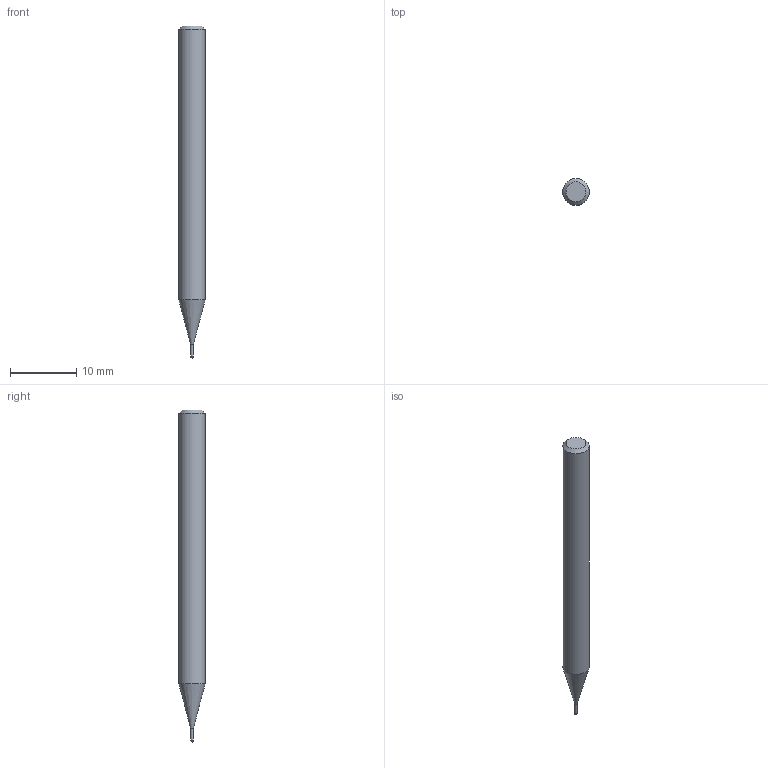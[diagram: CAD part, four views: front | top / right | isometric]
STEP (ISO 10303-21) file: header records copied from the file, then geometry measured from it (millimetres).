
FILE_DESCRIPTION((''),'2;1');
FILE_NAME('C:\Users\nsx150\AppData\Local\Temp\Mastercam 2021\LJSIDMOTM8\TEMP.step','2021-08-03T14:23:48',(''),(''),'STEP Write','Mastercam 2021 ... CNC Software, Inc.','');
FILE_SCHEMA(('AUTOMOTIVE_DESIGN'));
Length unit declared in the file: millimetre
Products named in the file (1): None
Bounding box: 4 x 4 x 50 mm (x, y, z)
Volume: 548.1 mm3; surface area: 577.3 mm2
Topology: 2 solids, 2 shells, 9 faces, 14 edges, 8 vertices
Faces by surface type: plane 3, cylinder 3, cone 2, sphere 1
Full cylindrical faces by diameter (mm): 0.37 x1, 0.4 x1, 4 x1
Entity records: 211 total; most frequent: DIRECTION 36, CARTESIAN_POINT 25, AXIS2_PLACEMENT_3D 18, ORIENTED_EDGE 14, EDGE_LOOP 14, STYLED_ITEM 12, ADVANCED_FACE 9, FACE_BOUND 8
